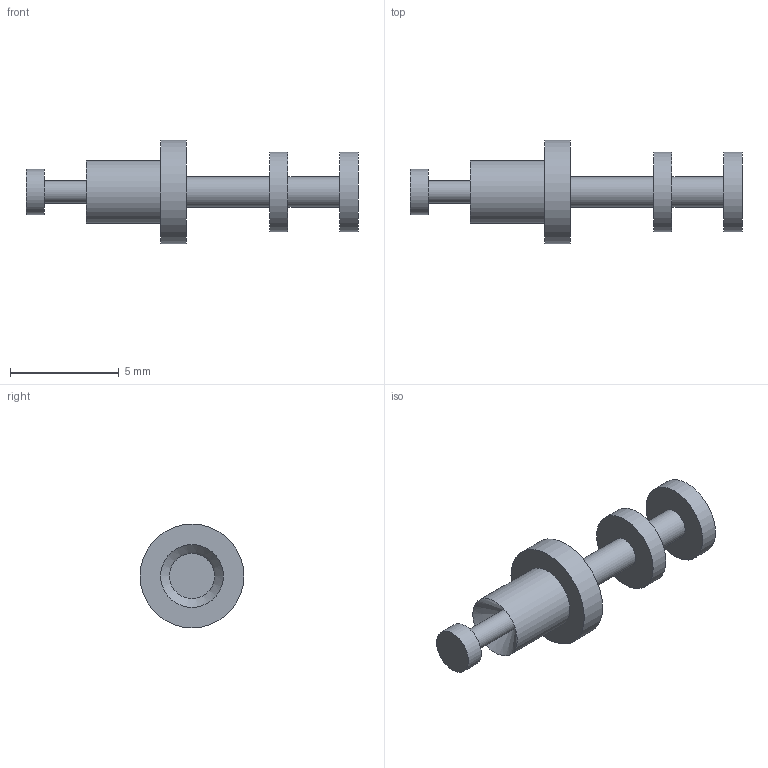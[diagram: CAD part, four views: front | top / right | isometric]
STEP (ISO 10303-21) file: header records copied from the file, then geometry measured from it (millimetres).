
FILE_DESCRIPTION(/* description */ (''),/* implementation_level */ '2;1');
FILE_NAME(/* name */ 'Z:\STEP folder\160-1520-03.ipt.stp',/* time_stamp */ '2016-12-07T10:47:48+00:00',/* author */ ('Paul Karlsons'),/* organization */ (''),/* preprocessor_version */ 'ST-DEVELOPER v15.2',/* originating_system */ 'Autodesk Inventor 2014',/* authorisation */ '');
FILE_SCHEMA (('AUTOMOTIVE_DESIGN { 1 0 10303 214 3 1 1 }'));
Length unit declared in the file: millimetre
Products named in the file (1): 160-1520-03
Bounding box: 15.29 x 4.78 x 4.78 mm (x, y, z)
Volume: 73.4 mm3; surface area: 190.3 mm2
Topology: 1 solids, 1 shells, 17 faces, 25 edges, 16 vertices
Faces by surface type: cylinder 8, plane 8, cone 1
Full cylindrical faces by diameter (mm): 1.016 x1, 1.397 x2, 2.083 x1, 2.896 x1, 3.683 x2, 4.775 x1
Entity records: 355 total; most frequent: DIRECTION 68, CARTESIAN_POINT 50, AXIS2_PLACEMENT_3D 34, EDGE_LOOP 32, ORIENTED_EDGE 32, FACE_BOUND 18, ADVANCED_FACE 17, CIRCLE 16
